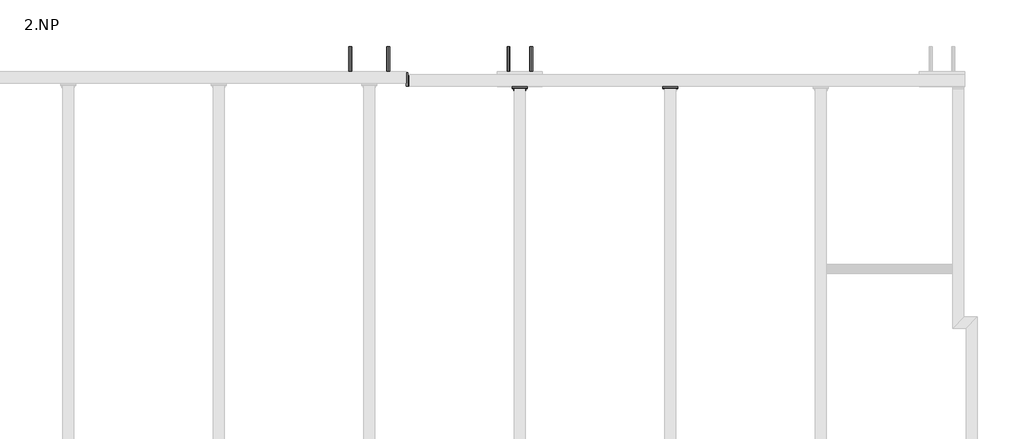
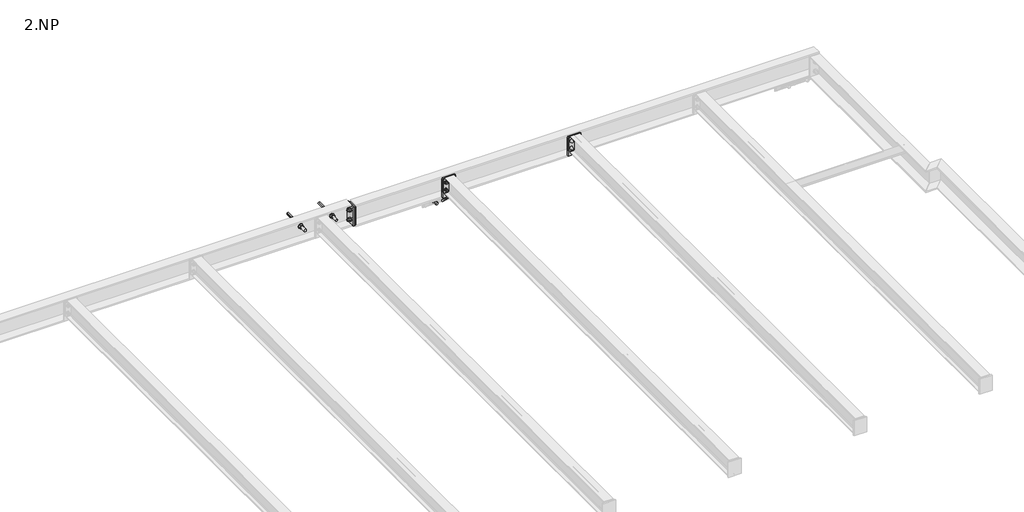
# One storey, part 14 of 18: 14 proxies.
"""IFC4 building model written with IfcOpenShell, lengths in millimetres."""

import ifcopenshell
import ifcopenshell.guid

model = None  # the IFC model being written
_history = None  # IfcOwnerHistory: only IFC2X3 demands one
_inside = {}  # id of a spatial element -> (the spatial element, [elements in it])
_under = {}  # id of a project, library or spatial element -> (it, [spatial elements below it])
_declared = {}  # id of a project -> (the project, [libraries it declares])
_typed = {}  # id of a type object -> (the type object, [elements of that type])
_made_of = {}  # id of a material, layer set ... -> (it, [elements and type objects made of it])


def new_model(schema):
    """Start an empty IFC model of exactly this schema.

    Asked for "IFC4X3", IfcOpenShell would pick the latest addendum, in which some entities
    have other attributes; the version numbers below select the first issue.
    IFC2X3 requires an IfcOwnerHistory on every rooted entity: one is made here for all.
    """
    global model, _history
    if schema == "IFC4X3":
        model = ifcopenshell.file(schema_version=(4, 3, 0, 0))
    else:
        model = ifcopenshell.file(schema=schema)
    _inside.clear()
    _under.clear()
    _declared.clear()
    _typed.clear()
    _made_of.clear()
    _history = None
    if model.schema == "IFC2X3":
        org = make("IfcOrganization", Name="unknown")
        user = make(
            "IfcPersonAndOrganization",
            ThePerson=make("IfcPerson", FamilyName="unknown"),
            TheOrganization=org,
        )
        app = make(
            "IfcApplication",
            ApplicationDeveloper=org,
            Version="unknown",
            ApplicationFullName="unknown",
            ApplicationIdentifier="unknown",
        )
        _history = make(
            "IfcOwnerHistory",
            OwningUser=user,
            OwningApplication=app,
            ChangeAction="ADDED",
            CreationDate=0,
        )
    return model


def make(cls, **values):
    """One entity of the class cls with the attributes given. An attribute that is None is left unset."""
    return model.create_entity(
        cls, **{name: value for name, value in values.items() if value is not None}
    )


def rooted(cls, **values):
    """An entity with a GlobalId (a new one), such as an element, a storey or a relation."""
    return make(cls, GlobalId=ifcopenshell.guid.new(), OwnerHistory=_history, **values)


def si_unit(unit_type, name, prefix=None):
    """IfcSIUnit, for example si_unit("LENGTHUNIT", "METRE", prefix="MILLI")."""
    return make("IfcSIUnit", UnitType=unit_type, Prefix=prefix, Name=name)


def assignment(units):
    """IfcUnitAssignment: the units of a project."""
    return None if units is None else make("IfcUnitAssignment", Units=units)


def point(xyz):
    """IfcCartesianPoint."""
    return None if xyz is None else make("IfcCartesianPoint", Coordinates=xyz)


def direction(xyz):
    """IfcDirection."""
    return None if xyz is None else make("IfcDirection", DirectionRatios=xyz)


def frame(location, z_axis=None, x_axis=None):
    """IfcAxis2Placement3D, a coordinate frame: its origin and axes. An axis left out is left unset."""
    return make(
        "IfcAxis2Placement3D",
        Location=point(location),
        Axis=direction(z_axis),
        RefDirection=direction(x_axis),
    )


def frame_2d(location, x_axis=None):
    """IfcAxis2Placement2D, a coordinate frame in the plane: its origin and x axis."""
    return make(
        "IfcAxis2Placement2D", Location=point(location), RefDirection=direction(x_axis)
    )


def origin():
    """The frame at (0, 0, 0) with its axes left unset."""
    return frame((0.0, 0.0, 0.0))


def place(relative_to, where):
    """IfcLocalPlacement: puts the frame where relative to a parent placement (None: the world)."""
    return make(
        "IfcLocalPlacement", PlacementRelTo=relative_to, RelativePlacement=where
    )


def context(
    kind, dimensions, precision=None, world=None, true_north=None, identifier=None
):
    """IfcGeometricRepresentationContext, for example the 3D "Model" context."""
    return make(
        "IfcGeometricRepresentationContext",
        ContextIdentifier=identifier,
        ContextType=kind,
        CoordinateSpaceDimension=dimensions,
        Precision=precision,
        WorldCoordinateSystem=world,
        TrueNorth=true_north,
    )


def project(units=None, contexts=None):
    """IfcProject with its units and contexts."""
    return rooted(
        "IfcProject",
        Name="project",
        RepresentationContexts=contexts,
        UnitsInContext=assignment(units),
    )


def spatial(cls, under=None, at=None, **own):
    """A site, building, storey or space (cls), placed at a placement, below another one or the project."""
    s = rooted(cls, ObjectPlacement=at, **own)
    if under is not None:
        _under.setdefault(under.id(), (under, []))[1].append(s)
    return s


def polyline(points):
    """IfcPolyline through the points."""
    return make("IfcPolyline", Points=[point(p) for p in points])


def circle_curve(where, radius):
    """IfcCircle in the frame where."""
    return make("IfcCircle", Position=where, Radius=radius)


def trimmed(basis, trim1, trim2, sense, master):
    """IfcTrimmedCurve: the piece of a basis curve between two trims."""
    return make(
        "IfcTrimmedCurve",
        BasisCurve=basis,
        Trim1=trim1,
        Trim2=trim2,
        SenseAgreement=sense,
        MasterRepresentation=master,
    )


def segment(curve, same_sense, transition):
    """IfcCompositeCurveSegment."""
    return make(
        "IfcCompositeCurveSegment",
        Transition=transition,
        SameSense=same_sense,
        ParentCurve=curve,
    )


def composite_curve(segments, self_intersect=None):
    """IfcCompositeCurve: segments joined end to end."""
    return make("IfcCompositeCurve", Segments=segments, SelfIntersect=self_intersect)


def outline(outer, holes=None, kind="AREA"):
    """IfcArbitraryClosedProfileDef: a profile drawn as a closed curve; with holes, ...WithVoids."""
    if holes is None:
        return make("IfcArbitraryClosedProfileDef", ProfileType=kind, OuterCurve=outer)
    return make(
        "IfcArbitraryProfileDefWithVoids",
        ProfileType=kind,
        OuterCurve=outer,
        InnerCurves=holes,
    )


def extrude(swept, where, along, depth):
    """IfcExtrudedAreaSolid: the profile swept, set in the frame where, extruded along a direction by depth."""
    return make(
        "IfcExtrudedAreaSolid",
        SweptArea=swept,
        Position=where,
        ExtrudedDirection=direction(along),
        Depth=depth,
    )


def shape(context_of_items, identifier, shape_type, items):
    """IfcShapeRepresentation: the items that make up one representation, for example the "Body"."""
    return make(
        "IfcShapeRepresentation",
        ContextOfItems=context_of_items,
        RepresentationIdentifier=identifier,
        RepresentationType=shape_type,
        Items=items,
    )


def made_of(thing, what):
    """Note that an element or type object is made of a material, layer set ...; save() writes the relation."""
    if what is not None:
        _made_of.setdefault(what.id(), (what, []))[1].append(thing)
    return thing


def element(
    cls,
    number,
    at=None,
    inside=None,
    cuts=None,
    type_object=None,
    material=None,
    context=None,
    identifier="Body",
    shape_type=None,
    held_by="IfcProductDefinitionShape",
    body=None,
    shapes=None,
    **own,
):
    """One element of the class cls, such as IfcWall. Its Tag is "e" and its number.

    at: its placement. inside: the storey or other place that contains it. cuts: it is an
    opening in that element (IfcRelVoidsElement). A single representation is given by context,
    identifier, shape_type and body (its items); several are given by shapes. held_by: the class
    of the entity that holds the representations. save() writes the other relations.
    """
    e = rooted(cls, Tag="e%d" % number, ObjectPlacement=at, **own)
    if body is not None:
        shapes = [shape(context, identifier, shape_type, body)]
    if shapes is not None:
        e.Representation = make(held_by, Representations=shapes)
    if inside is not None:
        _inside.setdefault(inside.id(), (inside, []))[1].append(e)
    if cuts is not None:
        rooted(
            "IfcRelVoidsElement", RelatingBuildingElement=cuts, RelatedOpeningElement=e
        )
    if type_object is not None:
        _typed.setdefault(type_object.id(), (type_object, []))[1].append(e)
    return made_of(e, material)


def aggregate(whole, parts):
    """IfcRelAggregates: a whole, such as a stair, and the parts it consists of."""
    return rooted("IfcRelAggregates", RelatingObject=whole, RelatedObjects=parts)


def save(model, path):
    """Write the relations noted so far, then the file.

    IfcRelAggregates (storeys below a building ...), IfcRelContainedInSpatialStructure (elements
    in a storey), IfcRelDefinesByType, IfcRelAssociatesMaterial and IfcRelDeclares: one each for
    every whole, place, type object, material and project.
    """
    for whole, parts in _under.values():
        aggregate(whole, parts)
    for where, things in _inside.values():
        rooted(
            "IfcRelContainedInSpatialStructure",
            RelatedElements=things,
            RelatingStructure=where,
        )
    for kind, things in _typed.values():
        rooted("IfcRelDefinesByType", RelatedObjects=things, RelatingType=kind)
    for what, things in _made_of.values():
        rooted("IfcRelAssociatesMaterial", RelatedObjects=things, RelatingMaterial=what)
    for by, libraries in _declared.values():
        rooted("IfcRelDeclares", RelatingContext=by, RelatedDefinitions=libraries)
    model.write(path)


model = new_model("IFC4")

# Units and contexts
model_context = context("Model", 3, world=origin())
ifc_project = project(units=[si_unit("LENGTHUNIT", "METRE", prefix="MILLI")], contexts=[model_context])

# Site, building, storey
site = spatial("IfcSite", under=ifc_project)
building = spatial("IfcBuilding", under=site)
storey = spatial("IfcBuildingStorey", under=building, Name="2.NP", Elevation=3000.0)

# Proxies
placement = place(None, origin())
element("IfcBuildingElementProxy", 1, Name="PLECH", ObjectType="PLECH", at=placement, inside=storey, context=model_context, shape_type="SweptSolid", body=[
    extrude(outline(polyline([(13000.0, 3755.0), (13100.0, 3755.0), (13100.0, 3747.0), (13000.0, 3747.0), (13000.0, 3755.0)])), frame((0.0, 0.0, 3175.0), z_axis=(0.0, 0.0, 1.0), x_axis=(1.0, 0.0, 0.0)), (0.0, 0.0, 1.0), 110.0),
])
element("IfcBuildingElementProxy", 2, Name="PLECH", ObjectType="PLECH", at=placement, inside=storey, context=model_context, shape_type="SweptSolid", body=[
    extrude(outline(polyline([(14000.0, 3755.0), (14100.0, 3755.0), (14100.0, 3747.0), (14000.0, 3747.0), (14000.0, 3755.0)])), frame((0.0, 0.0, 3175.0), z_axis=(0.0, 0.0, 1.0), x_axis=(1.0, 0.0, 0.0)), (0.0, 0.0, 1.0), 110.0),
])
element("IfcBuildingElementProxy", 3, Name="PLECH", ObjectType="PLECH", at=placement, inside=storey, context=model_context, shape_type="SweptSolid", body=[
    extrude(outline(composite_curve([segment(polyline([(3770.0, 3110.0), (3835.0, 3110.0)]), True, "CONTINUOUS"), segment(trimmed(circle_curve(frame_2d((3850.0, 3110.0)), 15.0), [point((3835.0, 3110.0))], [point((3850.0, 3095.0))], True, "CARTESIAN"), True, "CONTINUOUS"), segment(polyline([(3850.0, 3095.0), (3850.0, 3030.0), (3840.0, 3030.0), (3770.0, 3100.0), (3770.0, 3110.0)]), True, "CONTINUOUS")], self_intersect=False)), frame((13182.0, 0.0, 0.0), z_axis=(1.0, 0.0, 0.0), x_axis=(0.0, 1.0, 0.0)), (0.0, 0.0, 1.0), 8.0),
])
element("IfcBuildingElementProxy", 4, Name="PLECH", ObjectType="PLECH", at=placement, inside=storey, context=model_context, shape_type="SweptSolid", body=[
    extrude(outline(composite_curve([segment(polyline([(3770.0, 3110.0), (3835.0, 3110.0)]), True, "CONTINUOUS"), segment(trimmed(circle_curve(frame_2d((3850.0, 3110.0)), 15.0), [point((3835.0, 3110.0))], [point((3850.0, 3095.0))], True, "CARTESIAN"), True, "CONTINUOUS"), segment(polyline([(3850.0, 3095.0), (3850.0, 3030.0), (3840.0, 3030.0), (3770.0, 3100.0), (3770.0, 3110.0)]), True, "CONTINUOUS")], self_intersect=False)), frame((13046.0, 0.0, 0.0), z_axis=(1.0, 0.0, 0.0), x_axis=(0.0, 1.0, 0.0)), (0.0, 0.0, 1.0), 8.0),
])
element("IfcBuildingElementProxy", 5, Name="PLECH", ObjectType="PLECH", at=placement, inside=storey, context=model_context, shape_type="SweptSolid", body=[
    extrude(outline(polyline([(12305.0, 3855.0), (12305.0, 3765.0), (12295.0, 3765.0), (12295.0, 3855.0), (12305.0, 3855.0)])), frame((0.0, 0.0, 3130.5), z_axis=(0.0, 0.0, 1.0), x_axis=(1.0, 0.0, 0.0)), (0.0, 0.0, 1.0), 159.0),
])
element("IfcBuildingElementProxy", 6, Name="PLECH", ObjectType="PLECH", at=placement, inside=storey, context=model_context, shape_type="SweptSolid", body=[
    extrude(outline(polyline([(13000.0, 3765.0), (13100.0, 3765.0), (13100.0, 3755.0), (13000.0, 3755.0), (13000.0, 3765.0)])), frame((0.0, 0.0, 3128.0), z_axis=(0.0, 0.0, 1.0), x_axis=(1.0, 0.0, 0.0)), (0.0, 0.0, 1.0), 164.0),
])
element("IfcBuildingElementProxy", 7, Name="PLECH", ObjectType="PLECH", at=placement, inside=storey, context=model_context, shape_type="SweptSolid", body=[
    extrude(outline(composite_curve([segment(polyline([(3765.0, 3289.5), (3814.5, 3289.5)]), True, "CONTINUOUS"), segment(trimmed(circle_curve(frame_2d((3834.5, 3289.5)), 20.0), [point((3814.5, 3289.5))], [point((3834.5, 3269.5))], True, "CARTESIAN"), True, "CONTINUOUS"), segment(polyline([(3834.5, 3269.5), (3834.5, 3150.5)]), True, "CONTINUOUS"), segment(trimmed(circle_curve(frame_2d((3834.5, 3130.5)), 20.0), [point((3834.5, 3150.5))], [point((3814.5, 3130.5))], True, "CARTESIAN"), True, "CONTINUOUS"), segment(polyline([(3814.5, 3130.5), (3765.0, 3130.5), (3765.0, 3289.5)]), True, "CONTINUOUS")], self_intersect=False)), frame((13047.0, 0.0, 0.0), z_axis=(1.0, 0.0, 0.0), x_axis=(0.0, 1.0, 0.0)), (0.0, 0.0, 1.0), 6.0),
])
element("IfcBuildingElementProxy", 8, Name="PLECH", ObjectType="PLECH", at=placement, inside=storey, context=model_context, shape_type="SweptSolid", body=[
    extrude(outline(polyline([(14000.0, 3765.0), (14100.0, 3765.0), (14100.0, 3755.0), (14000.0, 3755.0), (14000.0, 3765.0)])), frame((0.0, 0.0, 3128.0), z_axis=(0.0, 0.0, 1.0), x_axis=(1.0, 0.0, 0.0)), (0.0, 0.0, 1.0), 164.0),
])
element("IfcBuildingElementProxy", 9, Name="PLECH", ObjectType="PLECH", at=placement, inside=storey, context=model_context, shape_type="SweptSolid", body=[
    extrude(outline(composite_curve([segment(polyline([(3765.0, 3289.5), (3814.5, 3289.5)]), True, "CONTINUOUS"), segment(trimmed(circle_curve(frame_2d((3834.5, 3289.5)), 20.0), [point((3814.5, 3289.5))], [point((3834.5, 3269.5))], True, "CARTESIAN"), True, "CONTINUOUS"), segment(polyline([(3834.5, 3269.5), (3834.5, 3150.5)]), True, "CONTINUOUS"), segment(trimmed(circle_curve(frame_2d((3834.5, 3130.5)), 20.0), [point((3834.5, 3150.5))], [point((3814.5, 3130.5))], True, "CARTESIAN"), True, "CONTINUOUS"), segment(polyline([(3814.5, 3130.5), (3765.0, 3130.5), (3765.0, 3289.5)]), True, "CONTINUOUS")], self_intersect=False)), frame((14047.0, 0.0, 0.0), z_axis=(1.0, 0.0, 0.0), x_axis=(0.0, 1.0, 0.0)), (0.0, 0.0, 1.0), 6.0),
])
element("IfcBuildingElementProxy", 10, Name="PLECH", ObjectType="PLECH", at=placement, inside=storey, context=model_context, shape_type="SweptSolid", body=[
    extrude(outline(polyline([(12315.0, 3835.0), (12315.0, 3765.0), (12305.0, 3765.0), (12305.0, 3835.0), (12315.0, 3835.0)])), frame((0.0, 0.0, 3130.5), z_axis=(0.0, 0.0, 1.0), x_axis=(1.0, 0.0, 0.0)), (0.0, 0.0, 1.0), 159.0),
])
element("IfcBuildingElementProxy", 11, Name="Bolt assembly", ObjectType="Bolt assembly", at=placement, inside=storey, context=model_context, shape_type="SweptSolid", body=[
    extrude(outline(polyline([(3070.0, 12984.8149546), (3078.5, 12979.9074773), (3078.5, 12970.0925227), (3070.0, 12965.1850454), (3061.5, 12970.0925227), (3061.5, 12979.9074773), (3070.0, 12984.8149546)])), frame((0.0, 3860.0, 0.0), z_axis=(0.0, 1.0, 0.0), x_axis=(0.0, 0.0, 1.0)), (0.0, 0.0, 1.0), 168.0),
    extrude(outline(composite_curve([segment(trimmed(circle_curve(frame_2d((3070.0, 12975.0)), 10.0), [point((3070.0, 12985.0))], [point((3070.0, 12965.0))], False, "CARTESIAN"), True, "CONTINUOUS"), segment(trimmed(circle_curve(frame_2d((3070.0, 12975.0)), 10.0), [point((3070.0, 12965.0))], [point((3070.0, 12985.0))], False, "CARTESIAN"), True, "CONTINUOUS")], self_intersect=False)), frame((0.0, 3788.0, 0.0), z_axis=(0.0, 1.0, 0.0), x_axis=(0.0, 0.0, 1.0)), (0.0, 0.0, 1.0), 72.0),
    extrude(outline(composite_curve([segment(trimmed(circle_curve(frame_2d((3070.0, 12975.0)), 18.5), [point((3070.0, 12993.5))], [point((3070.0, 12956.5))], False, "CARTESIAN"), True, "CONTINUOUS"), segment(trimmed(circle_curve(frame_2d((3070.0, 12975.0)), 18.5), [point((3070.0, 12956.5))], [point((3070.0, 12993.5))], False, "CARTESIAN"), True, "CONTINUOUS")], self_intersect=False)), frame((0.0, 3847.0, 0.0), z_axis=(0.0, 1.0, 0.0), x_axis=(0.0, 0.0, 1.0)), (0.0, 0.0, 1.0), 3.0),
    extrude(outline(polyline([(3070.0, 12992.3205081), (3085.0, 12983.660254), (3085.0, 12966.339746), (3070.0, 12957.6794919), (3055.0, 12966.339746), (3055.0, 12983.660254), (3070.0, 12992.3205081)])), frame((0.0, 3831.0, 0.0), z_axis=(0.0, 1.0, 0.0), x_axis=(0.0, 0.0, 1.0)), (0.0, 0.0, 1.0), 16.0),
    extrude(outline(composite_curve([segment(trimmed(circle_curve(frame_2d((3070.0, 12975.0)), 11.0), [point((3070.0, 12986.0))], [point((3070.0, 12964.0))], False, "CARTESIAN"), True, "CONTINUOUS"), segment(trimmed(circle_curve(frame_2d((3070.0, 12975.0)), 11.0), [point((3070.0, 12964.0))], [point((3070.0, 12986.0))], False, "CARTESIAN"), True, "CONTINUOUS")], self_intersect=False)), frame((0.0, 3849.9, 0.0), z_axis=(0.0, 1.0, 0.0), x_axis=(0.0, 0.0, 1.0)), (0.0, 0.0, 1.0), 10.1),
    extrude(outline(polyline([(3070.0, 13134.8149546), (3078.5, 13129.9074773), (3078.5, 13120.0925227), (3070.0, 13115.1850454), (3061.5, 13120.0925227), (3061.5, 13129.9074773), (3070.0, 13134.8149546)])), frame((0.0, 3860.0, 0.0), z_axis=(0.0, 1.0, 0.0), x_axis=(0.0, 0.0, 1.0)), (0.0, 0.0, 1.0), 168.0),
    extrude(outline(composite_curve([segment(trimmed(circle_curve(frame_2d((3070.0, 13125.0)), 10.0), [point((3070.0, 13135.0))], [point((3070.0, 13115.0))], False, "CARTESIAN"), True, "CONTINUOUS"), segment(trimmed(circle_curve(frame_2d((3070.0, 13125.0)), 10.0), [point((3070.0, 13115.0))], [point((3070.0, 13135.0))], False, "CARTESIAN"), True, "CONTINUOUS")], self_intersect=False)), frame((0.0, 3788.0, 0.0), z_axis=(0.0, 1.0, 0.0), x_axis=(0.0, 0.0, 1.0)), (0.0, 0.0, 1.0), 72.0),
    extrude(outline(composite_curve([segment(trimmed(circle_curve(frame_2d((3070.0, 13125.0)), 18.5), [point((3070.0, 13143.5))], [point((3070.0, 13106.5))], False, "CARTESIAN"), True, "CONTINUOUS"), segment(trimmed(circle_curve(frame_2d((3070.0, 13125.0)), 18.5), [point((3070.0, 13106.5))], [point((3070.0, 13143.5))], False, "CARTESIAN"), True, "CONTINUOUS")], self_intersect=False)), frame((0.0, 3847.0, 0.0), z_axis=(0.0, 1.0, 0.0), x_axis=(0.0, 0.0, 1.0)), (0.0, 0.0, 1.0), 3.0),
    extrude(outline(polyline([(3070.0, 13142.3205081), (3085.0, 13133.660254), (3085.0, 13116.339746), (3070.0, 13107.6794919), (3055.0, 13116.339746), (3055.0, 13133.660254), (3070.0, 13142.3205081)])), frame((0.0, 3831.0, 0.0), z_axis=(0.0, 1.0, 0.0), x_axis=(0.0, 0.0, 1.0)), (0.0, 0.0, 1.0), 16.0),
    extrude(outline(composite_curve([segment(trimmed(circle_curve(frame_2d((3070.0, 13125.0)), 11.0), [point((3070.0, 13136.0))], [point((3070.0, 13114.0))], False, "CARTESIAN"), True, "CONTINUOUS"), segment(trimmed(circle_curve(frame_2d((3070.0, 13125.0)), 11.0), [point((3070.0, 13114.0))], [point((3070.0, 13136.0))], False, "CARTESIAN"), True, "CONTINUOUS")], self_intersect=False)), frame((0.0, 3849.9, 0.0), z_axis=(0.0, 1.0, 0.0), x_axis=(0.0, 0.0, 1.0)), (0.0, 0.0, 1.0), 10.1),
])
element("IfcBuildingElementProxy", 12, Name="Bolt assembly", ObjectType="Bolt assembly", at=placement, inside=storey, context=model_context, shape_type="SweptSolid", body=[
    extrude(outline(polyline([(3210.0, 11934.8149546), (3218.5, 11929.9074773), (3218.5, 11920.0925227), (3210.0, 11915.1850454), (3201.5, 11920.0925227), (3201.5, 11929.9074773), (3210.0, 11934.8149546)])), frame((0.0, 3860.0, 0.0), z_axis=(0.0, 1.0, 0.0), x_axis=(0.0, 0.0, 1.0)), (0.0, 0.0, 1.0), 168.0),
    extrude(outline(composite_curve([segment(trimmed(circle_curve(frame_2d((3210.0, 11925.0)), 10.0), [point((3210.0, 11935.0))], [point((3210.0, 11915.0))], False, "CARTESIAN"), True, "CONTINUOUS"), segment(trimmed(circle_curve(frame_2d((3210.0, 11925.0)), 10.0), [point((3210.0, 11915.0))], [point((3210.0, 11935.0))], False, "CARTESIAN"), True, "CONTINUOUS")], self_intersect=False)), frame((0.0, 3788.0, 0.0), z_axis=(0.0, 1.0, 0.0), x_axis=(0.0, 0.0, 1.0)), (0.0, 0.0, 1.0), 72.0),
    extrude(outline(composite_curve([segment(trimmed(circle_curve(frame_2d((3210.0, 11925.0)), 18.5), [point((3210.0, 11943.5))], [point((3210.0, 11906.5))], False, "CARTESIAN"), True, "CONTINUOUS"), segment(trimmed(circle_curve(frame_2d((3210.0, 11925.0)), 18.5), [point((3210.0, 11906.5))], [point((3210.0, 11943.5))], False, "CARTESIAN"), True, "CONTINUOUS")], self_intersect=False)), frame((0.0, 3851.5, 0.0), z_axis=(0.0, 1.0, 0.0), x_axis=(0.0, 0.0, 1.0)), (0.0, 0.0, 1.0), 3.0),
    extrude(outline(polyline([(3210.0, 11942.3205081), (3225.0, 11933.660254), (3225.0, 11916.339746), (3210.0, 11907.6794919), (3195.0, 11916.339746), (3195.0, 11933.660254), (3210.0, 11942.3205081)])), frame((0.0, 3835.5, 0.0), z_axis=(0.0, 1.0, 0.0), x_axis=(0.0, 0.0, 1.0)), (0.0, 0.0, 1.0), 16.0),
    extrude(outline(composite_curve([segment(trimmed(circle_curve(frame_2d((3210.0, 11925.0)), 11.0), [point((3210.0, 11936.0))], [point((3210.0, 11914.0))], False, "CARTESIAN"), True, "CONTINUOUS"), segment(trimmed(circle_curve(frame_2d((3210.0, 11925.0)), 11.0), [point((3210.0, 11914.0))], [point((3210.0, 11936.0))], False, "CARTESIAN"), True, "CONTINUOUS")], self_intersect=False)), frame((0.0, 3854.4, 0.0), z_axis=(0.0, 1.0, 0.0), x_axis=(0.0, 0.0, 1.0)), (0.0, 0.0, 1.0), 5.6),
    extrude(outline(polyline([(3210.0, 12184.8149546), (3218.5, 12179.9074773), (3218.5, 12170.0925227), (3210.0, 12165.1850454), (3201.5, 12170.0925227), (3201.5, 12179.9074773), (3210.0, 12184.8149546)])), frame((0.0, 3860.0, 0.0), z_axis=(0.0, 1.0, 0.0), x_axis=(0.0, 0.0, 1.0)), (0.0, 0.0, 1.0), 168.0),
    extrude(outline(composite_curve([segment(trimmed(circle_curve(frame_2d((3210.0, 12175.0)), 10.0), [point((3210.0, 12185.0))], [point((3210.0, 12165.0))], False, "CARTESIAN"), True, "CONTINUOUS"), segment(trimmed(circle_curve(frame_2d((3210.0, 12175.0)), 10.0), [point((3210.0, 12165.0))], [point((3210.0, 12185.0))], False, "CARTESIAN"), True, "CONTINUOUS")], self_intersect=False)), frame((0.0, 3788.0, 0.0), z_axis=(0.0, 1.0, 0.0), x_axis=(0.0, 0.0, 1.0)), (0.0, 0.0, 1.0), 72.0),
    extrude(outline(composite_curve([segment(trimmed(circle_curve(frame_2d((3210.0, 12175.0)), 18.5), [point((3210.0, 12193.5))], [point((3210.0, 12156.5))], False, "CARTESIAN"), True, "CONTINUOUS"), segment(trimmed(circle_curve(frame_2d((3210.0, 12175.0)), 18.5), [point((3210.0, 12156.5))], [point((3210.0, 12193.5))], False, "CARTESIAN"), True, "CONTINUOUS")], self_intersect=False)), frame((0.0, 3851.5, 0.0), z_axis=(0.0, 1.0, 0.0), x_axis=(0.0, 0.0, 1.0)), (0.0, 0.0, 1.0), 3.0),
    extrude(outline(polyline([(3210.0, 12192.3205081), (3225.0, 12183.660254), (3225.0, 12166.339746), (3210.0, 12157.6794919), (3195.0, 12166.339746), (3195.0, 12183.660254), (3210.0, 12192.3205081)])), frame((0.0, 3835.5, 0.0), z_axis=(0.0, 1.0, 0.0), x_axis=(0.0, 0.0, 1.0)), (0.0, 0.0, 1.0), 16.0),
    extrude(outline(composite_curve([segment(trimmed(circle_curve(frame_2d((3210.0, 12175.0)), 11.0), [point((3210.0, 12186.0))], [point((3210.0, 12164.0))], False, "CARTESIAN"), True, "CONTINUOUS"), segment(trimmed(circle_curve(frame_2d((3210.0, 12175.0)), 11.0), [point((3210.0, 12164.0))], [point((3210.0, 12186.0))], False, "CARTESIAN"), True, "CONTINUOUS")], self_intersect=False)), frame((0.0, 3854.4, 0.0), z_axis=(0.0, 1.0, 0.0), x_axis=(0.0, 0.0, 1.0)), (0.0, 0.0, 1.0), 5.6),
])
element("IfcBuildingElementProxy", 13, Name="Bolt assembly", ObjectType="Bolt assembly", at=placement, inside=storey, context=model_context, shape_type="SweptSolid", body=[
    extrude(outline(composite_curve([segment(trimmed(circle_curve(frame_2d((3260.0, 13020.0)), 6.5), [point((3260.0, 13026.5))], [point((3260.0, 13013.5))], False, "CARTESIAN"), True, "CONTINUOUS"), segment(trimmed(circle_curve(frame_2d((3260.0, 13020.0)), 6.5), [point((3260.0, 13013.5))], [point((3260.0, 13026.5))], False, "CARTESIAN"), True, "CONTINUOUS")], self_intersect=False)), frame((0.0, 3754.9, 0.0), z_axis=(0.0, 1.0, 0.0), x_axis=(0.0, 0.0, 1.0)), (0.0, 0.0, 1.0), 10.0),
    extrude(outline(polyline([(3260.0, 13030.9696551), (3269.5, 13025.4848276), (3269.5, 13014.5151724), (3260.0, 13009.0303449), (3250.5, 13014.5151724), (3250.5, 13025.4848276), (3260.0, 13030.9696551)])), frame((0.0, 3767.5, 0.0), z_axis=(0.0, 1.0, 0.0), x_axis=(0.0, 0.0, 1.0)), (0.0, 0.0, 1.0), 7.5),
    extrude(outline(composite_curve([segment(trimmed(circle_curve(frame_2d((3260.0, 13020.0)), 6.0), [point((3260.0, 13026.0))], [point((3260.0, 13014.0))], False, "CARTESIAN"), True, "CONTINUOUS"), segment(trimmed(circle_curve(frame_2d((3260.0, 13020.0)), 6.0), [point((3260.0, 13014.0))], [point((3260.0, 13026.0))], False, "CARTESIAN"), True, "CONTINUOUS")], self_intersect=False)), frame((0.0, 3727.5, 0.0), z_axis=(0.0, 1.0, 0.0), x_axis=(0.0, 0.0, 1.0)), (0.0, 0.0, 1.0), 40.0),
    extrude(outline(composite_curve([segment(trimmed(circle_curve(frame_2d((3260.0, 13020.0)), 12.0), [point((3260.0, 13032.0))], [point((3260.0, 13008.0))], False, "CARTESIAN"), True, "CONTINUOUS"), segment(trimmed(circle_curve(frame_2d((3260.0, 13020.0)), 12.0), [point((3260.0, 13008.0))], [point((3260.0, 13032.0))], False, "CARTESIAN"), True, "CONTINUOUS")], self_intersect=False)), frame((0.0, 3765.0, 0.0), z_axis=(0.0, 1.0, 0.0), x_axis=(0.0, 0.0, 1.0)), (0.0, 0.0, 1.0), 2.5),
    extrude(outline(composite_curve([segment(trimmed(circle_curve(frame_2d((3260.0, 13020.0)), 12.0), [point((3260.0, 13032.0))], [point((3260.0, 13008.0))], False, "CARTESIAN"), True, "CONTINUOUS"), segment(trimmed(circle_curve(frame_2d((3260.0, 13020.0)), 12.0), [point((3260.0, 13008.0))], [point((3260.0, 13032.0))], False, "CARTESIAN"), True, "CONTINUOUS")], self_intersect=False)), frame((0.0, 3744.5, 0.0), z_axis=(0.0, 1.0, 0.0), x_axis=(0.0, 0.0, 1.0)), (0.0, 0.0, 1.0), 2.5),
    extrude(outline(polyline([(3260.0, 13030.9696551), (3269.5, 13025.4848276), (3269.5, 13014.5151724), (3260.0, 13009.0303449), (3250.5, 13014.5151724), (3250.5, 13025.4848276), (3260.0, 13030.9696551)])), frame((0.0, 3734.5, 0.0), z_axis=(0.0, 1.0, 0.0), x_axis=(0.0, 0.0, 1.0)), (0.0, 0.0, 1.0), 10.0),
    extrude(outline(composite_curve([segment(trimmed(circle_curve(frame_2d((3260.0, 13020.0)), 6.5), [point((3260.0, 13026.5))], [point((3260.0, 13013.5))], False, "CARTESIAN"), True, "CONTINUOUS"), segment(trimmed(circle_curve(frame_2d((3260.0, 13020.0)), 6.5), [point((3260.0, 13013.5))], [point((3260.0, 13026.5))], False, "CARTESIAN"), True, "CONTINUOUS")], self_intersect=False)), frame((0.0, 3747.0, 0.0), z_axis=(0.0, 1.0, 0.0), x_axis=(0.0, 0.0, 1.0)), (0.0, 0.0, 1.0), 8.1),
    extrude(outline(composite_curve([segment(trimmed(circle_curve(frame_2d((3260.0, 13080.0)), 6.5), [point((3260.0, 13086.5))], [point((3260.0, 13073.5))], False, "CARTESIAN"), True, "CONTINUOUS"), segment(trimmed(circle_curve(frame_2d((3260.0, 13080.0)), 6.5), [point((3260.0, 13073.5))], [point((3260.0, 13086.5))], False, "CARTESIAN"), True, "CONTINUOUS")], self_intersect=False)), frame((0.0, 3754.9, 0.0), z_axis=(0.0, 1.0, 0.0), x_axis=(0.0, 0.0, 1.0)), (0.0, 0.0, 1.0), 10.0),
    extrude(outline(polyline([(3260.0, 13090.9696551), (3269.5, 13085.4848276), (3269.5, 13074.5151724), (3260.0, 13069.0303449), (3250.5, 13074.5151724), (3250.5, 13085.4848276), (3260.0, 13090.9696551)])), frame((0.0, 3767.5, 0.0), z_axis=(0.0, 1.0, 0.0), x_axis=(0.0, 0.0, 1.0)), (0.0, 0.0, 1.0), 7.5),
    extrude(outline(composite_curve([segment(trimmed(circle_curve(frame_2d((3260.0, 13080.0)), 6.0), [point((3260.0, 13086.0))], [point((3260.0, 13074.0))], False, "CARTESIAN"), True, "CONTINUOUS"), segment(trimmed(circle_curve(frame_2d((3260.0, 13080.0)), 6.0), [point((3260.0, 13074.0))], [point((3260.0, 13086.0))], False, "CARTESIAN"), True, "CONTINUOUS")], self_intersect=False)), frame((0.0, 3727.5, 0.0), z_axis=(0.0, 1.0, 0.0), x_axis=(0.0, 0.0, 1.0)), (0.0, 0.0, 1.0), 40.0),
    extrude(outline(composite_curve([segment(trimmed(circle_curve(frame_2d((3260.0, 13080.0)), 12.0), [point((3260.0, 13092.0))], [point((3260.0, 13068.0))], False, "CARTESIAN"), True, "CONTINUOUS"), segment(trimmed(circle_curve(frame_2d((3260.0, 13080.0)), 12.0), [point((3260.0, 13068.0))], [point((3260.0, 13092.0))], False, "CARTESIAN"), True, "CONTINUOUS")], self_intersect=False)), frame((0.0, 3765.0, 0.0), z_axis=(0.0, 1.0, 0.0), x_axis=(0.0, 0.0, 1.0)), (0.0, 0.0, 1.0), 2.5),
    extrude(outline(composite_curve([segment(trimmed(circle_curve(frame_2d((3260.0, 13080.0)), 12.0), [point((3260.0, 13092.0))], [point((3260.0, 13068.0))], False, "CARTESIAN"), True, "CONTINUOUS"), segment(trimmed(circle_curve(frame_2d((3260.0, 13080.0)), 12.0), [point((3260.0, 13068.0))], [point((3260.0, 13092.0))], False, "CARTESIAN"), True, "CONTINUOUS")], self_intersect=False)), frame((0.0, 3744.5, 0.0), z_axis=(0.0, 1.0, 0.0), x_axis=(0.0, 0.0, 1.0)), (0.0, 0.0, 1.0), 2.5),
    extrude(outline(polyline([(3260.0, 13090.9696551), (3269.5, 13085.4848276), (3269.5, 13074.5151724), (3260.0, 13069.0303449), (3250.5, 13074.5151724), (3250.5, 13085.4848276), (3260.0, 13090.9696551)])), frame((0.0, 3734.5, 0.0), z_axis=(0.0, 1.0, 0.0), x_axis=(0.0, 0.0, 1.0)), (0.0, 0.0, 1.0), 10.0),
    extrude(outline(composite_curve([segment(trimmed(circle_curve(frame_2d((3260.0, 13080.0)), 6.5), [point((3260.0, 13086.5))], [point((3260.0, 13073.5))], False, "CARTESIAN"), True, "CONTINUOUS"), segment(trimmed(circle_curve(frame_2d((3260.0, 13080.0)), 6.5), [point((3260.0, 13073.5))], [point((3260.0, 13086.5))], False, "CARTESIAN"), True, "CONTINUOUS")], self_intersect=False)), frame((0.0, 3747.0, 0.0), z_axis=(0.0, 1.0, 0.0), x_axis=(0.0, 0.0, 1.0)), (0.0, 0.0, 1.0), 8.1),
    extrude(outline(composite_curve([segment(trimmed(circle_curve(frame_2d((3200.0, 13020.0)), 6.5), [point((3200.0, 13026.5))], [point((3200.0, 13013.5))], False, "CARTESIAN"), True, "CONTINUOUS"), segment(trimmed(circle_curve(frame_2d((3200.0, 13020.0)), 6.5), [point((3200.0, 13013.5))], [point((3200.0, 13026.5))], False, "CARTESIAN"), True, "CONTINUOUS")], self_intersect=False)), frame((0.0, 3754.9, 0.0), z_axis=(0.0, 1.0, 0.0), x_axis=(0.0, 0.0, 1.0)), (0.0, 0.0, 1.0), 10.0),
    extrude(outline(polyline([(3200.0, 13030.9696551), (3209.5, 13025.4848276), (3209.5, 13014.5151724), (3200.0, 13009.0303449), (3190.5, 13014.5151724), (3190.5, 13025.4848276), (3200.0, 13030.9696551)])), frame((0.0, 3767.5, 0.0), z_axis=(0.0, 1.0, 0.0), x_axis=(0.0, 0.0, 1.0)), (0.0, 0.0, 1.0), 7.5),
    extrude(outline(composite_curve([segment(trimmed(circle_curve(frame_2d((3200.0, 13020.0)), 6.0), [point((3200.0, 13026.0))], [point((3200.0, 13014.0))], False, "CARTESIAN"), True, "CONTINUOUS"), segment(trimmed(circle_curve(frame_2d((3200.0, 13020.0)), 6.0), [point((3200.0, 13014.0))], [point((3200.0, 13026.0))], False, "CARTESIAN"), True, "CONTINUOUS")], self_intersect=False)), frame((0.0, 3727.5, 0.0), z_axis=(0.0, 1.0, 0.0), x_axis=(0.0, 0.0, 1.0)), (0.0, 0.0, 1.0), 40.0),
    extrude(outline(composite_curve([segment(trimmed(circle_curve(frame_2d((3200.0, 13020.0)), 12.0), [point((3200.0, 13032.0))], [point((3200.0, 13008.0))], False, "CARTESIAN"), True, "CONTINUOUS"), segment(trimmed(circle_curve(frame_2d((3200.0, 13020.0)), 12.0), [point((3200.0, 13008.0))], [point((3200.0, 13032.0))], False, "CARTESIAN"), True, "CONTINUOUS")], self_intersect=False)), frame((0.0, 3765.0, 0.0), z_axis=(0.0, 1.0, 0.0), x_axis=(0.0, 0.0, 1.0)), (0.0, 0.0, 1.0), 2.5),
    extrude(outline(composite_curve([segment(trimmed(circle_curve(frame_2d((3200.0, 13020.0)), 12.0), [point((3200.0, 13032.0))], [point((3200.0, 13008.0))], False, "CARTESIAN"), True, "CONTINUOUS"), segment(trimmed(circle_curve(frame_2d((3200.0, 13020.0)), 12.0), [point((3200.0, 13008.0))], [point((3200.0, 13032.0))], False, "CARTESIAN"), True, "CONTINUOUS")], self_intersect=False)), frame((0.0, 3744.5, 0.0), z_axis=(0.0, 1.0, 0.0), x_axis=(0.0, 0.0, 1.0)), (0.0, 0.0, 1.0), 2.5),
    extrude(outline(polyline([(3200.0, 13030.9696551), (3209.5, 13025.4848276), (3209.5, 13014.5151724), (3200.0, 13009.0303449), (3190.5, 13014.5151724), (3190.5, 13025.4848276), (3200.0, 13030.9696551)])), frame((0.0, 3734.5, 0.0), z_axis=(0.0, 1.0, 0.0), x_axis=(0.0, 0.0, 1.0)), (0.0, 0.0, 1.0), 10.0),
    extrude(outline(composite_curve([segment(trimmed(circle_curve(frame_2d((3200.0, 13020.0)), 6.5), [point((3200.0, 13026.5))], [point((3200.0, 13013.5))], False, "CARTESIAN"), True, "CONTINUOUS"), segment(trimmed(circle_curve(frame_2d((3200.0, 13020.0)), 6.5), [point((3200.0, 13013.5))], [point((3200.0, 13026.5))], False, "CARTESIAN"), True, "CONTINUOUS")], self_intersect=False)), frame((0.0, 3747.0, 0.0), z_axis=(0.0, 1.0, 0.0), x_axis=(0.0, 0.0, 1.0)), (0.0, 0.0, 1.0), 8.1),
    extrude(outline(composite_curve([segment(trimmed(circle_curve(frame_2d((3200.0, 13080.0)), 6.5), [point((3200.0, 13086.5))], [point((3200.0, 13073.5))], False, "CARTESIAN"), True, "CONTINUOUS"), segment(trimmed(circle_curve(frame_2d((3200.0, 13080.0)), 6.5), [point((3200.0, 13073.5))], [point((3200.0, 13086.5))], False, "CARTESIAN"), True, "CONTINUOUS")], self_intersect=False)), frame((0.0, 3754.9, 0.0), z_axis=(0.0, 1.0, 0.0), x_axis=(0.0, 0.0, 1.0)), (0.0, 0.0, 1.0), 10.0),
    extrude(outline(polyline([(3200.0, 13090.9696551), (3209.5, 13085.4848276), (3209.5, 13074.5151724), (3200.0, 13069.0303449), (3190.5, 13074.5151724), (3190.5, 13085.4848276), (3200.0, 13090.9696551)])), frame((0.0, 3767.5, 0.0), z_axis=(0.0, 1.0, 0.0), x_axis=(0.0, 0.0, 1.0)), (0.0, 0.0, 1.0), 7.5),
    extrude(outline(composite_curve([segment(trimmed(circle_curve(frame_2d((3200.0, 13080.0)), 6.0), [point((3200.0, 13086.0))], [point((3200.0, 13074.0))], False, "CARTESIAN"), True, "CONTINUOUS"), segment(trimmed(circle_curve(frame_2d((3200.0, 13080.0)), 6.0), [point((3200.0, 13074.0))], [point((3200.0, 13086.0))], False, "CARTESIAN"), True, "CONTINUOUS")], self_intersect=False)), frame((0.0, 3727.5, 0.0), z_axis=(0.0, 1.0, 0.0), x_axis=(0.0, 0.0, 1.0)), (0.0, 0.0, 1.0), 40.0),
    extrude(outline(composite_curve([segment(trimmed(circle_curve(frame_2d((3200.0, 13080.0)), 12.0), [point((3200.0, 13092.0))], [point((3200.0, 13068.0))], False, "CARTESIAN"), True, "CONTINUOUS"), segment(trimmed(circle_curve(frame_2d((3200.0, 13080.0)), 12.0), [point((3200.0, 13068.0))], [point((3200.0, 13092.0))], False, "CARTESIAN"), True, "CONTINUOUS")], self_intersect=False)), frame((0.0, 3765.0, 0.0), z_axis=(0.0, 1.0, 0.0), x_axis=(0.0, 0.0, 1.0)), (0.0, 0.0, 1.0), 2.5),
    extrude(outline(composite_curve([segment(trimmed(circle_curve(frame_2d((3200.0, 13080.0)), 12.0), [point((3200.0, 13092.0))], [point((3200.0, 13068.0))], False, "CARTESIAN"), True, "CONTINUOUS"), segment(trimmed(circle_curve(frame_2d((3200.0, 13080.0)), 12.0), [point((3200.0, 13068.0))], [point((3200.0, 13092.0))], False, "CARTESIAN"), True, "CONTINUOUS")], self_intersect=False)), frame((0.0, 3744.5, 0.0), z_axis=(0.0, 1.0, 0.0), x_axis=(0.0, 0.0, 1.0)), (0.0, 0.0, 1.0), 2.5),
    extrude(outline(polyline([(3200.0, 13090.9696551), (3209.5, 13085.4848276), (3209.5, 13074.5151724), (3200.0, 13069.0303449), (3190.5, 13074.5151724), (3190.5, 13085.4848276), (3200.0, 13090.9696551)])), frame((0.0, 3734.5, 0.0), z_axis=(0.0, 1.0, 0.0), x_axis=(0.0, 0.0, 1.0)), (0.0, 0.0, 1.0), 10.0),
    extrude(outline(composite_curve([segment(trimmed(circle_curve(frame_2d((3200.0, 13080.0)), 6.5), [point((3200.0, 13086.5))], [point((3200.0, 13073.5))], False, "CARTESIAN"), True, "CONTINUOUS"), segment(trimmed(circle_curve(frame_2d((3200.0, 13080.0)), 6.5), [point((3200.0, 13073.5))], [point((3200.0, 13086.5))], False, "CARTESIAN"), True, "CONTINUOUS")], self_intersect=False)), frame((0.0, 3747.0, 0.0), z_axis=(0.0, 1.0, 0.0), x_axis=(0.0, 0.0, 1.0)), (0.0, 0.0, 1.0), 8.1),
])
element("IfcBuildingElementProxy", 14, Name="Bolt assembly", ObjectType="Bolt assembly", at=placement, inside=storey, context=model_context, shape_type="SweptSolid", body=[
    extrude(outline(composite_curve([segment(trimmed(circle_curve(frame_2d((3800.0, 3170.0)), 9.0), [point((3809.0, 3170.0))], [point((3791.0, 3170.0))], False, "CARTESIAN"), True, "CONTINUOUS"), segment(trimmed(circle_curve(frame_2d((3800.0, 3170.0)), 9.0), [point((3791.0, 3170.0))], [point((3809.0, 3170.0))], False, "CARTESIAN"), True, "CONTINUOUS")], self_intersect=False)), frame((12304.9, 0.0, 0.0), z_axis=(1.0, 0.0, 0.0), x_axis=(0.0, 1.0, 0.0)), (0.0, 0.0, 1.0), 10.0),
    extrude(outline(polyline([(3813.8564065, 3170.0), (3806.9282032, 3158.0), (3793.0717968, 3158.0), (3786.1435935, 3170.0), (3793.0717968, 3182.0), (3806.9282032, 3182.0), (3813.8564065, 3170.0)])), frame((12318.0, 0.0, 0.0), z_axis=(1.0, 0.0, 0.0), x_axis=(0.0, 1.0, 0.0)), (0.0, 0.0, 1.0), 10.0),
    extrude(outline(composite_curve([segment(trimmed(circle_curve(frame_2d((3800.0, 3170.0)), 8.0), [point((3808.0, 3170.0))], [point((3792.0, 3170.0))], False, "CARTESIAN"), True, "CONTINUOUS"), segment(trimmed(circle_curve(frame_2d((3800.0, 3170.0)), 8.0), [point((3792.0, 3170.0))], [point((3808.0, 3170.0))], False, "CARTESIAN"), True, "CONTINUOUS")], self_intersect=False)), frame((12268.0, 0.0, 0.0), z_axis=(1.0, 0.0, 0.0), x_axis=(0.0, 1.0, 0.0)), (0.0, 0.0, 1.0), 50.0),
    extrude(outline(composite_curve([segment(trimmed(circle_curve(frame_2d((3800.0, 3170.0)), 15.0), [point((3815.0, 3170.0))], [point((3785.0, 3170.0))], False, "CARTESIAN"), True, "CONTINUOUS"), segment(trimmed(circle_curve(frame_2d((3800.0, 3170.0)), 15.0), [point((3785.0, 3170.0))], [point((3815.0, 3170.0))], False, "CARTESIAN"), True, "CONTINUOUS")], self_intersect=False)), frame((12315.0, 0.0, 0.0), z_axis=(1.0, 0.0, 0.0), x_axis=(0.0, 1.0, 0.0)), (0.0, 0.0, 1.0), 3.0),
    extrude(outline(composite_curve([segment(trimmed(circle_curve(frame_2d((3800.0, 3170.0)), 15.0), [point((3815.0, 3170.0))], [point((3785.0, 3170.0))], False, "CARTESIAN"), True, "CONTINUOUS"), segment(trimmed(circle_curve(frame_2d((3800.0, 3170.0)), 15.0), [point((3785.0, 3170.0))], [point((3815.0, 3170.0))], False, "CARTESIAN"), True, "CONTINUOUS")], self_intersect=False)), frame((12292.0, 0.0, 0.0), z_axis=(1.0, 0.0, 0.0), x_axis=(0.0, 1.0, 0.0)), (0.0, 0.0, 1.0), 3.0),
    extrude(outline(polyline([(3815.4441197, 3170.0), (3807.7220599, 3156.625), (3792.2779401, 3156.625), (3784.5558803, 3170.0), (3792.2779401, 3183.375), (3807.7220599, 3183.375), (3815.4441197, 3170.0)])), frame((12279.0, 0.0, 0.0), z_axis=(1.0, 0.0, 0.0), x_axis=(0.0, 1.0, 0.0)), (0.0, 0.0, 1.0), 13.0),
    extrude(outline(composite_curve([segment(trimmed(circle_curve(frame_2d((3800.0, 3170.0)), 9.0), [point((3809.0, 3170.0))], [point((3791.0, 3170.0))], False, "CARTESIAN"), True, "CONTINUOUS"), segment(trimmed(circle_curve(frame_2d((3800.0, 3170.0)), 9.0), [point((3791.0, 3170.0))], [point((3809.0, 3170.0))], False, "CARTESIAN"), True, "CONTINUOUS")], self_intersect=False)), frame((12295.0, 0.0, 0.0), z_axis=(1.0, 0.0, 0.0), x_axis=(0.0, 1.0, 0.0)), (0.0, 0.0, 1.0), 10.1),
    extrude(outline(composite_curve([segment(trimmed(circle_curve(frame_2d((3800.0, 3250.0)), 9.0), [point((3809.0, 3250.0))], [point((3791.0, 3250.0))], False, "CARTESIAN"), True, "CONTINUOUS"), segment(trimmed(circle_curve(frame_2d((3800.0, 3250.0)), 9.0), [point((3791.0, 3250.0))], [point((3809.0, 3250.0))], False, "CARTESIAN"), True, "CONTINUOUS")], self_intersect=False)), frame((12304.9, 0.0, 0.0), z_axis=(1.0, 0.0, 0.0), x_axis=(0.0, 1.0, 0.0)), (0.0, 0.0, 1.0), 10.0),
    extrude(outline(polyline([(3813.8564065, 3250.0), (3806.9282032, 3238.0), (3793.0717968, 3238.0), (3786.1435935, 3250.0), (3793.0717968, 3262.0), (3806.9282032, 3262.0), (3813.8564065, 3250.0)])), frame((12318.0, 0.0, 0.0), z_axis=(1.0, 0.0, 0.0), x_axis=(0.0, 1.0, 0.0)), (0.0, 0.0, 1.0), 10.0),
    extrude(outline(composite_curve([segment(trimmed(circle_curve(frame_2d((3800.0, 3250.0)), 8.0), [point((3808.0, 3250.0))], [point((3792.0, 3250.0))], False, "CARTESIAN"), True, "CONTINUOUS"), segment(trimmed(circle_curve(frame_2d((3800.0, 3250.0)), 8.0), [point((3792.0, 3250.0))], [point((3808.0, 3250.0))], False, "CARTESIAN"), True, "CONTINUOUS")], self_intersect=False)), frame((12268.0, 0.0, 0.0), z_axis=(1.0, 0.0, 0.0), x_axis=(0.0, 1.0, 0.0)), (0.0, 0.0, 1.0), 50.0),
    extrude(outline(composite_curve([segment(trimmed(circle_curve(frame_2d((3800.0, 3250.0)), 15.0), [point((3815.0, 3250.0))], [point((3785.0, 3250.0))], False, "CARTESIAN"), True, "CONTINUOUS"), segment(trimmed(circle_curve(frame_2d((3800.0, 3250.0)), 15.0), [point((3785.0, 3250.0))], [point((3815.0, 3250.0))], False, "CARTESIAN"), True, "CONTINUOUS")], self_intersect=False)), frame((12315.0, 0.0, 0.0), z_axis=(1.0, 0.0, 0.0), x_axis=(0.0, 1.0, 0.0)), (0.0, 0.0, 1.0), 3.0),
    extrude(outline(composite_curve([segment(trimmed(circle_curve(frame_2d((3800.0, 3250.0)), 15.0), [point((3815.0, 3250.0))], [point((3785.0, 3250.0))], False, "CARTESIAN"), True, "CONTINUOUS"), segment(trimmed(circle_curve(frame_2d((3800.0, 3250.0)), 15.0), [point((3785.0, 3250.0))], [point((3815.0, 3250.0))], False, "CARTESIAN"), True, "CONTINUOUS")], self_intersect=False)), frame((12292.0, 0.0, 0.0), z_axis=(1.0, 0.0, 0.0), x_axis=(0.0, 1.0, 0.0)), (0.0, 0.0, 1.0), 3.0),
    extrude(outline(polyline([(3815.4441197, 3250.0), (3807.7220599, 3236.625), (3792.2779401, 3236.625), (3784.5558803, 3250.0), (3792.2779401, 3263.375), (3807.7220599, 3263.375), (3815.4441197, 3250.0)])), frame((12279.0, 0.0, 0.0), z_axis=(1.0, 0.0, 0.0), x_axis=(0.0, 1.0, 0.0)), (0.0, 0.0, 1.0), 13.0),
    extrude(outline(composite_curve([segment(trimmed(circle_curve(frame_2d((3800.0, 3250.0)), 9.0), [point((3809.0, 3250.0))], [point((3791.0, 3250.0))], False, "CARTESIAN"), True, "CONTINUOUS"), segment(trimmed(circle_curve(frame_2d((3800.0, 3250.0)), 9.0), [point((3791.0, 3250.0))], [point((3809.0, 3250.0))], False, "CARTESIAN"), True, "CONTINUOUS")], self_intersect=False)), frame((12295.0, 0.0, 0.0), z_axis=(1.0, 0.0, 0.0), x_axis=(0.0, 1.0, 0.0)), (0.0, 0.0, 1.0), 10.1),
])

save(model, "model.ifc")
